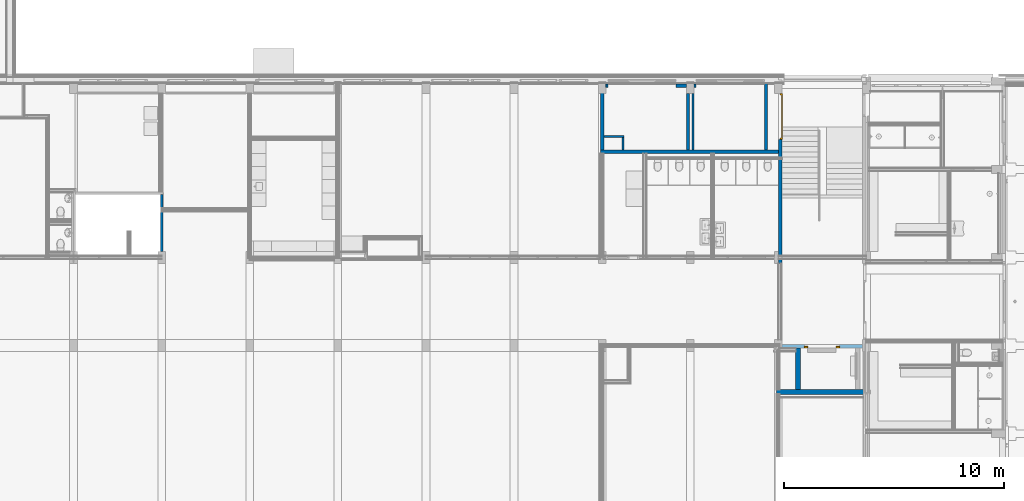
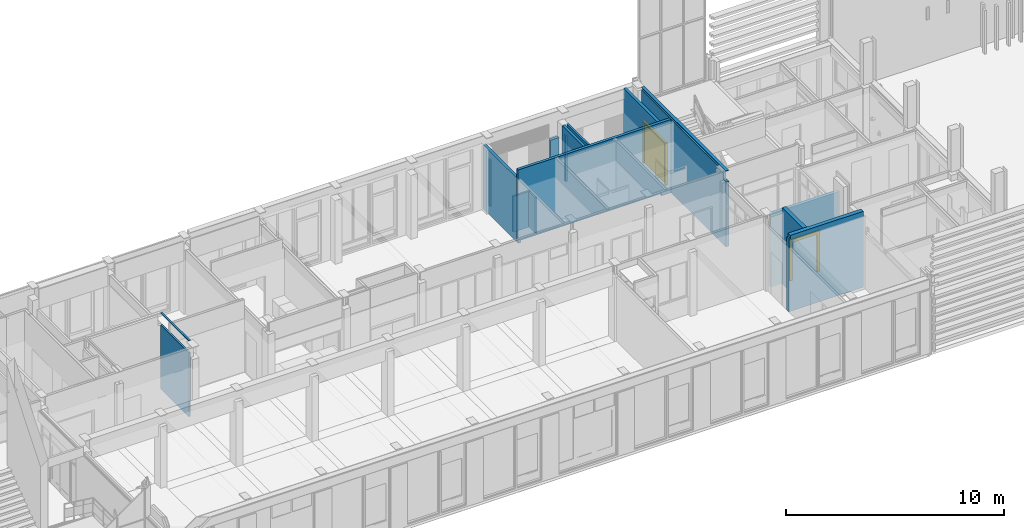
# One storey, part 19 of 109: 14 walls, 2 doors, 4 openings, plus 1 element that does not belong to this part.
"""IFC2X3 building model written with IfcOpenShell, lengths in millimetres."""

import ifcopenshell
import ifcopenshell.guid

model = None  # the IFC model being written
_history = None  # IfcOwnerHistory: only IFC2X3 demands one
_inside = {}  # id of a spatial element -> (the spatial element, [elements in it])
_under = {}  # id of a project, library or spatial element -> (it, [spatial elements below it])
_declared = {}  # id of a project -> (the project, [libraries it declares])
_typed = {}  # id of a type object -> (the type object, [elements of that type])
_made_of = {}  # id of a material, layer set ... -> (it, [elements and type objects made of it])


def new_model(schema):
    """Start an empty IFC model of exactly this schema.

    Asked for "IFC4X3", IfcOpenShell would pick the latest addendum, in which some entities
    have other attributes; the version numbers below select the first issue.
    IFC2X3 requires an IfcOwnerHistory on every rooted entity: one is made here for all.
    """
    global model, _history
    if schema == "IFC4X3":
        model = ifcopenshell.file(schema_version=(4, 3, 0, 0))
    else:
        model = ifcopenshell.file(schema=schema)
    _inside.clear()
    _under.clear()
    _declared.clear()
    _typed.clear()
    _made_of.clear()
    _history = None
    if model.schema == "IFC2X3":
        org = make("IfcOrganization", Name="unknown")
        user = make(
            "IfcPersonAndOrganization",
            ThePerson=make("IfcPerson", FamilyName="unknown"),
            TheOrganization=org,
        )
        app = make(
            "IfcApplication",
            ApplicationDeveloper=org,
            Version="unknown",
            ApplicationFullName="unknown",
            ApplicationIdentifier="unknown",
        )
        _history = make(
            "IfcOwnerHistory",
            OwningUser=user,
            OwningApplication=app,
            ChangeAction="ADDED",
            CreationDate=0,
        )
    return model


def make(cls, **values):
    """One entity of the class cls with the attributes given. An attribute that is None is left unset."""
    return model.create_entity(
        cls, **{name: value for name, value in values.items() if value is not None}
    )


def entity(cls, *values):
    """Any entity or typed value of the class cls, its attributes in the order of the schema. None: left unset."""
    e = model.create_entity(cls)
    for i, value in enumerate(values):
        if value is not None:
            e[i] = value
    return e


def rooted(cls, **values):
    """An entity with a GlobalId (a new one), such as an element, a storey or a relation."""
    return make(cls, GlobalId=ifcopenshell.guid.new(), OwnerHistory=_history, **values)


def si_unit(unit_type, name, prefix=None):
    """IfcSIUnit, for example si_unit("LENGTHUNIT", "METRE", prefix="MILLI")."""
    return make("IfcSIUnit", UnitType=unit_type, Prefix=prefix, Name=name)


def converted_unit(unit_type, name, factor, base, dimensions=None, offset=None):
    """IfcConversionBasedUnit, such as the inch: factor (a typed value) times the base unit."""
    return make(
        "IfcConversionBasedUnit"
        if offset is None
        else "IfcConversionBasedUnitWithOffset",
        ConversionOffset=offset,
        Dimensions=None
        if dimensions is None
        else entity("IfcDimensionalExponents", *dimensions),
        UnitType=unit_type,
        Name=name,
        ConversionFactor=make(
            "IfcMeasureWithUnit", ValueComponent=factor, UnitComponent=base
        ),
    )


def derived_unit(unit_type, elements):
    """IfcDerivedUnit: a product of units, each with its exponent."""
    return make(
        "IfcDerivedUnit",
        Elements=[
            make("IfcDerivedUnitElement", Unit=unit, Exponent=power)
            for unit, power in elements
        ],
        UnitType=unit_type,
    )


def money_unit(currency):
    """IfcMonetaryUnit."""
    return make("IfcMonetaryUnit", Currency=currency)


def assignment(units):
    """IfcUnitAssignment: the units of a project."""
    return None if units is None else make("IfcUnitAssignment", Units=units)


def point(xyz):
    """IfcCartesianPoint."""
    return None if xyz is None else make("IfcCartesianPoint", Coordinates=xyz)


def direction(xyz):
    """IfcDirection."""
    return None if xyz is None else make("IfcDirection", DirectionRatios=xyz)


def frame(location, z_axis=None, x_axis=None):
    """IfcAxis2Placement3D, a coordinate frame: its origin and axes. An axis left out is left unset."""
    return make(
        "IfcAxis2Placement3D",
        Location=point(location),
        Axis=direction(z_axis),
        RefDirection=direction(x_axis),
    )


def origin_with_axes():
    """The frame at (0, 0, 0) with the z axis (0, 0, 1) and the x axis (1, 0, 0) written out."""
    return frame((0.0, 0.0, 0.0), z_axis=(0.0, 0.0, 1.0), x_axis=(1.0, 0.0, 0.0))


def place(relative_to, where):
    """IfcLocalPlacement: puts the frame where relative to a parent placement (None: the world)."""
    return make(
        "IfcLocalPlacement", PlacementRelTo=relative_to, RelativePlacement=where
    )


def context(
    kind, dimensions, precision=None, world=None, true_north=None, identifier=None
):
    """IfcGeometricRepresentationContext, for example the 3D "Model" context."""
    return make(
        "IfcGeometricRepresentationContext",
        ContextIdentifier=identifier,
        ContextType=kind,
        CoordinateSpaceDimension=dimensions,
        Precision=precision,
        WorldCoordinateSystem=world,
        TrueNorth=true_north,
    )


def subcontext(parent, identifier, kind, view, scale=None):
    """IfcGeometricRepresentationSubContext, for example "Body" below "Model"."""
    return make(
        "IfcGeometricRepresentationSubContext",
        ContextIdentifier=identifier,
        ContextType=kind,
        ParentContext=parent,
        TargetScale=scale,
        TargetView=view,
    )


def project(units=None, contexts=None):
    """IfcProject with its units and contexts."""
    return rooted(
        "IfcProject",
        Name="project",
        RepresentationContexts=contexts,
        UnitsInContext=assignment(units),
    )


def spatial(cls, under=None, at=None, **own):
    """A site, building, storey or space (cls), placed at a placement, below another one or the project."""
    s = rooted(cls, ObjectPlacement=at, **own)
    if under is not None:
        _under.setdefault(under.id(), (under, []))[1].append(s)
    return s


def faces_of(points, faces, orient=None, outer=None):
    """IfcFace entities. A face is a list of loops; a loop is a list of indices into points, from 0.

    orient and outer hold one flag for each loop. By default every Orientation is true, the
    first loop of a face is its IfcFaceOuterBound and the others are IfcFaceBound.
    """
    made = []
    for i, loops in enumerate(faces):
        bounds = []
        for j, loop in enumerate(loops):
            is_outer = j == 0 if outer is None else outer[i][j]
            bounds.append(
                make(
                    "IfcFaceOuterBound" if is_outer else "IfcFaceBound",
                    Bound=make("IfcPolyLoop", Polygon=[points[k] for k in loop]),
                    Orientation=True if orient is None else orient[i][j],
                )
            )
        made.append(make("IfcFace", Bounds=bounds))
    return made


def faceted_brep(points, faces, orient=None, outer=None, voids=None):
    """IfcFacetedBrep: a solid bounded by flat faces; with voids (closed shells), ...WithVoids."""
    shared = [point(p) for p in points]
    hull = make("IfcClosedShell", CfsFaces=faces_of(shared, faces, orient, outer))
    if voids is None:
        return make("IfcFacetedBrep", Outer=hull)
    return make(
        "IfcFacetedBrepWithVoids",
        Outer=hull,
        Voids=[
            make(cls, CfsFaces=faces_of(shared, fs, o, b)) for cls, fs, o, b in voids
        ],
    )


def shape(context_of_items, identifier, shape_type, items):
    """IfcShapeRepresentation: the items that make up one representation, for example the "Body"."""
    return make(
        "IfcShapeRepresentation",
        ContextOfItems=context_of_items,
        RepresentationIdentifier=identifier,
        RepresentationType=shape_type,
        Items=items,
    )


def material(Name=None, Category=None):
    """IfcMaterial."""
    return make("IfcMaterial", Name=Name, Category=Category)


def made_of(thing, what):
    """Note that an element or type object is made of a material, layer set ...; save() writes the relation."""
    if what is not None:
        _made_of.setdefault(what.id(), (what, []))[1].append(thing)
    return thing


def type_object(cls, material=None, **own):
    """A type object (cls), such as IfcWallType, which elements share."""
    return made_of(rooted(cls, **own), material)


def element(
    cls,
    number,
    at=None,
    inside=None,
    cuts=None,
    type_object=None,
    material=None,
    context=None,
    identifier="Body",
    shape_type=None,
    held_by="IfcProductDefinitionShape",
    body=None,
    shapes=None,
    **own,
):
    """One element of the class cls, such as IfcWall. Its Tag is "e" and its number.

    at: its placement. inside: the storey or other place that contains it. cuts: it is an
    opening in that element (IfcRelVoidsElement). A single representation is given by context,
    identifier, shape_type and body (its items); several are given by shapes. held_by: the class
    of the entity that holds the representations. save() writes the other relations.
    """
    e = rooted(cls, Tag="e%d" % number, ObjectPlacement=at, **own)
    if body is not None:
        shapes = [shape(context, identifier, shape_type, body)]
    if shapes is not None:
        e.Representation = make(held_by, Representations=shapes)
    if inside is not None:
        _inside.setdefault(inside.id(), (inside, []))[1].append(e)
    if cuts is not None:
        rooted(
            "IfcRelVoidsElement", RelatingBuildingElement=cuts, RelatedOpeningElement=e
        )
    if type_object is not None:
        _typed.setdefault(type_object.id(), (type_object, []))[1].append(e)
    return made_of(e, material)


def fill(opening, filler):
    """IfcRelFillsElement: the door or window that sits in an opening."""
    return rooted(
        "IfcRelFillsElement",
        RelatingOpeningElement=opening,
        RelatedBuildingElement=filler,
    )


def aggregate(whole, parts):
    """IfcRelAggregates: a whole, such as a stair, and the parts it consists of."""
    return rooted("IfcRelAggregates", RelatingObject=whole, RelatedObjects=parts)


def save(model, path):
    """Write the relations noted so far, then the file.

    IfcRelAggregates (storeys below a building ...), IfcRelContainedInSpatialStructure (elements
    in a storey), IfcRelDefinesByType, IfcRelAssociatesMaterial and IfcRelDeclares: one each for
    every whole, place, type object, material and project.
    """
    for whole, parts in _under.values():
        aggregate(whole, parts)
    for where, things in _inside.values():
        rooted(
            "IfcRelContainedInSpatialStructure",
            RelatedElements=things,
            RelatingStructure=where,
        )
    for kind, things in _typed.values():
        rooted("IfcRelDefinesByType", RelatedObjects=things, RelatingType=kind)
    for what, things in _made_of.values():
        rooted("IfcRelAssociatesMaterial", RelatedObjects=things, RelatingMaterial=what)
    for by, libraries in _declared.values():
        rooted("IfcRelDeclares", RelatingContext=by, RelatedDefinitions=libraries)
    model.write(path)


model = new_model("IFC2X3")

# Units and contexts
model_context = context("Model", 3, precision=0.01, world=origin_with_axes(), true_north=direction((0.0, 1.0)))
body_context = subcontext(model_context, "Body", "Model", "MODEL_VIEW")
ifc_project = project(units=[si_unit("LENGTHUNIT", "METRE", prefix="MILLI"), si_unit("AREAUNIT", "SQUARE_METRE"), si_unit("VOLUMEUNIT", "CUBIC_METRE"), converted_unit("PLANEANGLEUNIT", "DEGREE", entity("IfcPlaneAngleMeasure", 0.0174532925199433), si_unit("PLANEANGLEUNIT", "RADIAN"), dimensions=[0, 0, 0, 0, 0, 0, 0]), money_unit("EUR"), converted_unit("TIMEUNIT", "Year", entity("IfcTimeMeasure", 31557600.0), si_unit("TIMEUNIT", "SECOND"), dimensions=[0, 0, 1, 0, 0, 0, 0]), si_unit("MASSUNIT", "GRAM", prefix="KILO"), si_unit("THERMODYNAMICTEMPERATUREUNIT", "DEGREE_CELSIUS"), si_unit("LUMINOUSINTENSITYUNIT", "LUMEN"), si_unit("ENERGYUNIT", "JOULE", prefix="MEGA"), derived_unit("THERMALCONDUCTANCEUNIT", [(si_unit("POWERUNIT", "WATT"), 1), (si_unit("LENGTHUNIT", "METRE"), -1), (si_unit("THERMODYNAMICTEMPERATUREUNIT", "KELVIN"), -1)]), derived_unit("SPECIFICHEATCAPACITYUNIT", [(si_unit("ENERGYUNIT", "JOULE"), 1), (si_unit("MASSUNIT", "GRAM", prefix="KILO"), -1), (si_unit("THERMODYNAMICTEMPERATUREUNIT", "KELVIN"), -1)]), derived_unit("MASSDENSITYUNIT", [(si_unit("MASSUNIT", "GRAM", prefix="KILO"), 1), (si_unit("VOLUMEUNIT", "CUBIC_METRE"), -1)])], contexts=[model_context])

# Site, building, storey
site_placement = place(None, origin_with_axes())
site = spatial("IfcSite", under=ifc_project, at=site_placement, Name="<site naam>", CompositionType="ELEMENT")
building_placement = place(site_placement, origin_with_axes())
building = spatial("IfcBuilding", under=site, at=building_placement, Name="<Naam gebouw>", CompositionType="ELEMENT")
storey_placement = place(building_placement, origin_with_axes())
storey = spatial("IfcBuildingStorey", under=building, at=storey_placement, Name="00 Begane grond", CompositionType="ELEMENT", Elevation=0.0)

# Wall, openings, door
ifc_material_1 = material(Name="kalkzandsteen")
wall_type_1 = type_object("IfcWallType", Name="kalkzandsteen 150", PredefinedType="NOTDEFINED")
wall_1_placement = place(storey_placement, frame((51825.00000000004, 7904.999998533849, 0.0), z_axis=(0.0, 0.0, 1.0), x_axis=(-1.0, 0.0, 0.0)))
wall_1 = element("IfcWall", 1, at=wall_1_placement, inside=storey, type_object=wall_type_1, material=ifc_material_1, Name="22_Binnenwand_kalkzandsteen", context=body_context, shape_type="Brep", body=[
    faceted_brep([(3650.000000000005, -150.0000000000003, 4100.000000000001), (0.0, -150.0000000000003, 4100.000000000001), (0.0, -150.0000000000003, 0.0), (3650.000000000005, -150.0000000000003, 0.0), (0.0, 0.0, 4100.000000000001), (3650.000000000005, 0.0, 4100.000000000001), (0.0, 0.0, 0.0), (3650.000000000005, 0.0, 0.0)], [[[0, 1, 2, 3]], [[4, 1, 0, 5]], [[1, 4, 6, 2]], [[2, 6, 7, 3]], [[5, 0, 3, 7]], [[4, 5, 7, 6]]]),
])
opening_1_placement = place(wall_1_placement, frame((1844.999999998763, 0.0, 0.0), z_axis=(0.0, 0.0, 1.0), x_axis=(1.0, 0.0, 0.0)))
element("IfcOpeningElement", 2, at=opening_1_placement, cuts=wall_1, Name="22_liftdeur_305", context=body_context, shape_type="Brep", body=[
    faceted_brep([(649.9999999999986, 1.000000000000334, 2100.0), (649.9999999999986, 1.000000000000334, 0.0), (-649.9999999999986, 1.000000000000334, 0.0), (-649.9999999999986, 1.000000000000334, 2100.0), (649.9999999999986, -150.9999999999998, 2100.0), (649.9999999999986, -150.9999999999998, 0.0), (-649.9999999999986, -150.9999999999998, 0.0), (-649.9999999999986, -150.9999999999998, 2100.0)], [[[0, 1, 2, 3]], [[4, 5, 1, 0]], [[5, 6, 2, 1]], [[6, 7, 3, 2]], [[7, 4, 0, 3]], [[6, 5, 4, 7]]]),
])
opening_2_placement = place(wall_1_placement, frame((1844.999999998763, 0.0, 0.0), z_axis=(0.0, 0.0, 1.0), x_axis=(1.0, 0.0, 0.0)))
opening_2 = element("IfcOpeningElement", 3, at=opening_2_placement, cuts=wall_1, Name="22__305", context=body_context, shape_type="Brep", body=[
    faceted_brep([(-799.9999999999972, -150.9999999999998, 2300.0), (-799.9999999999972, -150.9999999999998, 0.0), (799.9999999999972, -150.9999999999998, 0.0), (799.9999999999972, -150.9999999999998, 2300.0), (-799.9999999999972, 1.000000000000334, 2300.0), (-799.9999999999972, 1.000000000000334, 0.0), (799.9999999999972, 1.000000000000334, 0.0), (799.9999999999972, 1.000000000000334, 2300.0)], [[[0, 1, 2, 3]], [[4, 5, 1, 0]], [[5, 6, 2, 1]], [[6, 7, 3, 2]], [[7, 4, 0, 3]], [[6, 5, 4, 7]]]),
])
door_style_1 = type_object("IfcDoorStyle", Name="D1 27", ConstructionType="NOTDEFINED", OperationType="NOTDEFINED", ParameterTakesPrecedence=False, Sizeable=False)
door_1_placement = place(opening_2_placement, frame((-649.9999999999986, 0.0, 0.0), z_axis=(0.0, 0.0, 1.0), x_axis=(1.0, 0.0, 0.0)))
door_1 = element("IfcDoor", 4, at=door_1_placement, inside=storey, type_object=door_style_1, Name="22__305", ObjectType="DOOR", OverallHeight=2300.0, OverallWidth=1600.0, context=body_context, shape_type="Brep", body=[
    faceted_brep([(1449.999999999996, 0.0, 0.0), (1449.999999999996, -60.0000000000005, 0.0), (1299.999999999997, -60.0000000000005, 0.0), (1299.999999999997, 0.0, 0.0), (1449.999999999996, 0.0, 2100.0), (1449.999999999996, -59.99999999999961, 2100.0), (1299.999999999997, -59.99999999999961, 2100.0), (1299.999999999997, 0.0, 2100.0)], [[[0, 1, 2, 3]], [[4, 5, 1, 0]], [[1, 5, 6, 2]], [[3, 2, 6, 7]], [[0, 3, 7, 4]], [[7, 6, 5, 4]]]),
    faceted_brep([(-149.9999999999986, 0.0, 0.0), (-149.9999999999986, -59.99999999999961, 0.0), (-149.9999999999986, -59.99999999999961, 2100.0), (-149.9999999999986, 0.0, 2100.0), (0.0, 0.0, 0.0), (0.0, -59.99999999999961, 0.0), (0.0, -59.99999999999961, 2100.0), (0.0, 0.0, 2100.0)], [[[0, 1, 2, 3]], [[4, 5, 1, 0]], [[1, 5, 6, 2]], [[3, 2, 6, 7]], [[0, 3, 7, 4]], [[7, 6, 5, 4]]]),
    faceted_brep([(1449.999999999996, 0.0, 2300.0), (1449.999999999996, -59.99999999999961, 2300.0), (1449.999999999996, -59.99999999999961, 2100.0), (1449.999999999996, 0.0, 2100.0), (-149.9999999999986, 0.0, 2300.0), (-149.9999999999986, -59.99999999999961, 2300.0), (-149.9999999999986, -59.99999999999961, 2100.0), (0.0, -59.99999999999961, 2100.0), (1299.999999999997, -59.99999999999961, 2100.0), (1299.999999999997, 0.0, 2100.0), (0.0, 0.0, 2100.0), (-149.9999999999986, 0.0, 2100.0)], [[[0, 1, 2, 3]], [[4, 5, 1, 0]], [[1, 5, 6, 7, 8, 2]], [[3, 2, 8, 9]], [[0, 3, 9, 10, 11, 4]], [[11, 6, 5, 4]], [[10, 7, 6, 11]], [[9, 8, 7, 10]]]),
])
fill(opening_2, door_1)

# Wall, opening
wall_2_placement = place(storey_placement, frame((47362.99904152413, 19954.9498242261, 112.0000000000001), z_axis=(0.0, 0.0, 1.0), x_axis=(5.470457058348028e-09, -1.0, 0.0)))
wall_2 = element("IfcWall", 5, at=wall_2_placement, inside=storey, type_object=wall_type_1, material=ifc_material_1, Name="22_Binnenwand_kalkzandsteen", context=body_context, shape_type="Brep", body=[
    faceted_brep([(8.19941448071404e-07, 149.8853476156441, 0.0), (8.19941448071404e-07, 149.8853476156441, 17.99999999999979), (0.0, 0.0, 17.99999999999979), (0.0, 0.0, 3988.0), (8.205702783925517e-07, 149.9999999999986, 3988.0), (8.205702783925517e-07, 149.9999999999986, 0.0), (3079.999959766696, 149.8853307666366, 17.99999999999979), (3079.999959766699, 149.8853307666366, 0.0), (3079.999959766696, -1.684900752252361e-05, 17.99999999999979), (3079.999959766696, -1.684900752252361e-05, 3988.0), (3079.999959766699, 149.9999831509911, 3988.0), (3079.999959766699, 149.9999831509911, 0.0)], [[[0, 1, 2, 3, 4, 5]], [[6, 1, 0, 7]], [[8, 2, 1, 6]], [[3, 2, 8, 9]], [[3, 9, 10, 4]], [[4, 10, 11, 5]], [[11, 7, 0, 5]], [[8, 6, 7, 11, 10, 9]]]),
])
opening_3_placement = place(wall_2_placement, frame((19954.94956512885, -47362.99915068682, -112.0000000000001), z_axis=(0.0, 0.0, 1.0), x_axis=(5.470457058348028e-09, 1.0, 0.0)))
element("IfcOpeningElement", 6, at=opening_3_placement, cuts=wall_2, Name="22_vloerluik_", context=body_context, shape_type="Brep", body=[
    faceted_brep([(47212.99902467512, 17939.94041595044, 929.9999999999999), (47212.99902467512, 17939.94041595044, 926.9378967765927), (47662.99907522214, 17939.94041841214, 926.9378967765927), (47662.99907522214, 17939.94041841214, 929.9999999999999), (47212.99902467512, 17939.94041595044, 933.0621032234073), (47212.99902467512, 17941.00387323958, 939.0932692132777), (47212.99902467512, 17943.09847520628, 944.8481408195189), (47212.99902467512, 17946.16057842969, 950.151859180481), (47212.99902467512, 17950.09714245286, 954.8432734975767), (47212.99902467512, 17954.78855676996, 958.7798375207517), (47212.99902467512, 17960.09227513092, 961.8419407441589), (47212.99902467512, 17965.84714673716, 963.9365427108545), (47212.99902467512, 17971.87831272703, 965.0), (47212.99902467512, 17974.94041595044, 965.0), (47212.99902467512, 17978.00251917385, 965.0), (47212.99902467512, 17984.03368516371, 963.9365427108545), (47212.99902467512, 17989.78855676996, 961.8419407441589), (47212.99902467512, 17995.09227513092, 958.7798375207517), (47212.99902467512, 17999.78368944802, 954.8432734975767), (47212.99902467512, 18003.72025347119, 950.151859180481), (47212.99902467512, 18006.7823566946, 944.8481408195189), (47212.99902467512, 18008.87695866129, 939.0932692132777), (47212.99902467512, 18009.94041595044, 933.0621032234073), (47212.99902467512, 18009.94041595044, 929.9999999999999), (47212.99902467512, 18009.94041595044, 926.9378967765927), (47212.99902467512, 18008.87695866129, 920.9067307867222), (47212.99902467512, 18006.7823566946, 915.1518591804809), (47212.99902467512, 18003.72025347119, 909.848140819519), (47212.99902467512, 17999.78368944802, 905.1567265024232), (47212.99902467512, 17995.09227513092, 901.2201624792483), (47212.99902467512, 17989.78855676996, 898.158059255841), (47212.99902467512, 17984.03368516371, 896.0634572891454), (47212.99902467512, 17978.00251917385, 895.0), (47212.99902467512, 17974.94041595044, 895.0), (47212.99902467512, 17971.87831272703, 895.0), (47212.99902467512, 17965.84714673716, 896.0634572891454), (47212.99902467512, 17960.09227513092, 898.158059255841), (47212.99902467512, 17954.78855676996, 901.2201624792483), (47212.99902467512, 17950.09714245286, 905.1567265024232), (47212.99902467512, 17946.16057842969, 909.848140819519), (47212.99902467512, 17943.09847520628, 915.1518591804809), (47212.99902467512, 17941.00387323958, 920.9067307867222), (47662.99907522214, 17941.00387570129, 920.9067307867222), (47662.99907522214, 17943.09847766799, 915.1518591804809), (47662.99907522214, 17946.1605808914, 909.848140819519), (47662.99907522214, 17950.09714491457, 905.1567265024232), (47662.99907522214, 17954.78855923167, 901.2201624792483), (47662.99907522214, 17960.09227759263, 898.158059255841), (47662.99907522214, 17965.84714919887, 896.0634572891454), (47662.99907522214, 17971.87831518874, 895.0), (47662.99907522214, 17974.94041841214, 895.0), (47662.99907522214, 17978.00252163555, 895.0), (47662.99907522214, 17984.03368762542, 896.0634572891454), (47662.99907522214, 17989.78855923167, 898.158059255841), (47662.99907522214, 17995.09227759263, 901.2201624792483), (47662.99907522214, 17999.78369190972, 905.1567265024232), (47662.99907522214, 18003.7202559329, 909.848140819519), (47662.99907522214, 18006.7823591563, 915.1518591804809), (47662.99907522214, 18008.876961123, 920.9067307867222), (47662.99907522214, 18009.94041841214, 926.9378967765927), (47662.99907522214, 18009.94041841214, 929.9999999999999), (47662.99907522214, 18009.94041841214, 933.0621032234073), (47662.99907522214, 18008.876961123, 939.0932692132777), (47662.99907522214, 18006.7823591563, 944.8481408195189), (47662.99907522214, 18003.7202559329, 950.151859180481), (47662.99907522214, 17999.78369190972, 954.8432734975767), (47662.99907522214, 17995.09227759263, 958.7798375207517), (47662.99907522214, 17989.78855923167, 961.8419407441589), (47662.99907522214, 17984.03368762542, 963.9365427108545), (47662.99907522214, 17978.00252163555, 965.0), (47662.99907522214, 17974.94041841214, 965.0), (47662.99907522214, 17971.87831518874, 965.0), (47662.99907522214, 17965.84714919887, 963.9365427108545), (47662.99907522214, 17960.09227759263, 961.8419407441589), (47662.99907522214, 17954.78855923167, 958.7798375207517), (47662.99907522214, 17950.09714491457, 954.8432734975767), (47662.99907522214, 17946.1605808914, 950.151859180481), (47662.99907522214, 17943.09847766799, 944.8481408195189), (47662.99907522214, 17941.00387570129, 939.0932692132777), (47662.99907522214, 17939.94041841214, 933.0621032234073)], [[[0, 1, 2, 3]], [[0, 4, 5, 6, 7, 8, 9, 10, 11, 12, 13, 14, 15, 16, 17, 18, 19, 20, 21, 22, 23, 24, 25, 26, 27, 28, 29, 30, 31, 32, 33, 34, 35, 36, 37, 38, 39, 40, 41, 1]], [[1, 41, 42, 2]], [[3, 2, 42, 43, 44, 45, 46, 47, 48, 49, 50, 51, 52, 53, 54, 55, 56, 57, 58, 59, 60, 61, 62, 63, 64, 65, 66, 67, 68, 69, 70, 71, 72, 73, 74, 75, 76, 77, 78, 79]], [[4, 0, 3, 79]], [[5, 4, 79, 78]], [[6, 5, 78, 77]], [[7, 6, 77, 76]], [[8, 7, 76, 75]], [[9, 8, 75, 74]], [[10, 9, 74, 73]], [[11, 10, 73, 72]], [[12, 11, 72, 71]], [[13, 12, 71, 70]], [[14, 13, 70, 69]], [[15, 14, 69, 68]], [[16, 15, 68, 67]], [[17, 16, 67, 66]], [[18, 17, 66, 65]], [[19, 18, 65, 64]], [[20, 19, 64, 63]], [[21, 20, 63, 62]], [[22, 21, 62, 61]], [[23, 22, 61, 60]], [[24, 23, 60, 59]], [[25, 24, 59, 58]], [[26, 25, 58, 57]], [[27, 26, 57, 56]], [[28, 27, 56, 55]], [[29, 28, 55, 54]], [[30, 29, 54, 53]], [[31, 30, 53, 52]], [[32, 31, 52, 51]], [[33, 32, 51, 50]], [[34, 33, 50, 49]], [[35, 34, 49, 48]], [[36, 35, 48, 47]], [[37, 36, 47, 46]], [[38, 37, 46, 45]], [[39, 38, 45, 44]], [[40, 39, 44, 43]], [[41, 40, 43, 42]]]),
])

# Walls
wall_3_placement = place(storey_placement, frame((43825.00000000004, 19449.99999999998, 0.0), z_axis=(0.0, 0.0, 1.0), x_axis=(0.0, -1.0, 0.0)))
element("IfcWall", 7, at=wall_3_placement, inside=storey, type_object=wall_type_1, material=ifc_material_1, Name="22_Binnenwand_kalkzandsteen", context=body_context, shape_type="Brep", body=[
    faceted_brep([(8.228546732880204e-06, 0.0, 3570.0), (4.702027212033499e-06, 149.9999999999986, 3570.0), (3.522083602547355e-05, 150.0000000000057, 129.9999999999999), (6.16364630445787e-05, 0.0, 129.9999999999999), (2575.050154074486, 150.0000000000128, 3570.0), (2575.050154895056, 0.0, 3570.0), (2575.050154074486, 150.0000000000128, 129.9999999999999), (2575.050154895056, 0.0, 129.9999999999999)], [[[0, 1, 2, 3]], [[4, 1, 0, 5]], [[1, 4, 6, 2]], [[6, 7, 3, 2]], [[5, 0, 3, 7]], [[4, 5, 7, 6]]]),
])
wall_4_placement = place(storey_placement, frame((48015.00001408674, 16874.94986802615, 0.0), z_axis=(0.0, 0.0, 1.0), x_axis=(-1.0, -5.470459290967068e-09, 0.0)))
element("IfcWall", 8, at=wall_4_placement, inside=storey, type_object=wall_type_1, material=ifc_material_1, Name="22_Binnenwand_kalkzandsteen", context=body_context, shape_type="Brep", body=[
    faceted_brep([(502.115624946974, -2.74680189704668e-06, 129.9999999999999), (7940.000014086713, -4.343544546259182e-05, 129.9999999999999), (7940.000014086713, -4.343544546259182e-05, 0.0), (8090.000014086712, -4.425601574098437e-05, 0.0), (8090.000014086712, -4.425601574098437e-05, 4100.0), (0.0, 0.0, 4100.0), (0.0, 0.0, 0.0), (502.115624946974, -2.74680189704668e-06, 0.0), (7940.000014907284, 149.9999925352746, 129.9999999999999), (502.1156257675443, 150.0000332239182, 129.9999999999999), (7940.000014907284, 149.9999925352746, 0.0), (8090.000014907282, 149.9999557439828, 0.0), (8090.000014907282, 149.9999557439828, 4100.0), (8.205702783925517e-07, 149.9999999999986, 4100.0), (8.205702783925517e-07, 149.9999999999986, 0.0), (502.1156257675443, 150.0000332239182, 0.0)], [[[0, 1, 2, 3, 4, 5, 6, 7]], [[8, 1, 0, 9]], [[10, 2, 1, 8]], [[3, 2, 10, 11]], [[11, 12, 4, 3]], [[5, 4, 12, 13]], [[14, 6, 5, 13]], [[14, 15, 7, 6]], [[9, 0, 7, 15]], [[8, 9, 15, 14, 13, 12, 11, 10]]]),
])
wall_5_placement = place(storey_placement, frame((39925.00000000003, 19954.54883586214, 0.0), z_axis=(0.0, 0.0, 1.0), x_axis=(0.0, -1.0, 0.0)))
element("IfcWall", 9, at=wall_5_placement, inside=storey, type_object=wall_type_1, material=ifc_material_1, Name="22_Binnenwand_kalkzandsteen", context=body_context, shape_type="Brep", body=[
    faceted_brep([(0.0, 0.0, 3570.0), (0.0, 149.9999999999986, 3570.0), (0.0, 149.9999999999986, 0.0), (0.0, 0.0, 0.0), (3079.599011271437, 149.9999999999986, 3570.0), (3079.599012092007, 0.0, 3570.0), (3079.599011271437, 149.9999999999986, 0.0), (3079.599012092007, 0.0, 0.0)], [[[0, 1, 2, 3]], [[4, 1, 0, 5]], [[1, 4, 6, 2]], [[2, 6, 7, 3]], [[5, 0, 3, 7]], [[4, 5, 7, 6]]]),
])
wall_6_placement = place(storey_placement, frame((40175.00900223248, 19878.00001350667, 129.9999999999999), z_axis=(0.0, 0.0, 1.0), x_axis=(0.9999999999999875, -1.589195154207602e-07, 0.0)))
element("IfcWall", 10, at=wall_6_placement, inside=storey, type_object=wall_type_1, material=ifc_material_1, Name="22_Binnenwand_kalkzandsteen", context=body_context, shape_type="Brep", body=[
    faceted_brep([(0.0, 0.0, 0.0), (84.99099776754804, 0.0, 0.0), (84.99099776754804, -150.0000000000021, 0.0), (0.0, -150.0000000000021, 0.0), (0.0, 0.0, 2599.999960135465), (84.99099776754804, 0.0, 2599.999960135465), (84.99099776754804, -150.0000000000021, 2599.999960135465), (0.0, -150.0000000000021, 2599.999960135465)], [[[0, 1, 2, 3]], [[4, 5, 1, 0]], [[2, 1, 5, 6]], [[3, 2, 6, 7]], [[4, 0, 3, 7]], [[7, 6, 5, 4]]]),
])
wall_7_placement = place(storey_placement, frame((43364.00000000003, 19877.99999999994, 129.9999808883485), z_axis=(0.0, 0.0, 1.0), x_axis=(0.9999999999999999, 1.509118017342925e-08, 0.0)))
element("IfcWall", 11, at=wall_7_placement, inside=storey, type_object=wall_type_1, material=ifc_material_1, Name="22_Binnenwand_kalkzandsteen", context=body_context, shape_type="Brep", body=[
    faceted_brep([(0.0, 0.0, 0.0), (461.0000000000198, -6.957034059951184e-06, 0.0), (460.9999977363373, -150.0000069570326, 0.0), (-2.263682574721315e-06, -149.9999999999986, 0.0), (0.0, 0.0, 2599.999979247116), (461.0000000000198, -6.957034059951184e-06, 2599.999979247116), (460.9999977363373, -150.0000069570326, 2599.999979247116), (-2.263682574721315e-06, -149.9999999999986, 2599.999979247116)], [[[0, 1, 2, 3]], [[4, 5, 1, 0]], [[2, 1, 5, 6]], [[3, 2, 6, 7]], [[4, 0, 3, 7]], [[7, 6, 5, 4]]]),
])
wall_8_placement = place(storey_placement, frame((44174.99995291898, 19878.00001223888, 0.0), z_axis=(0.0, 0.0, 1.0), x_axis=(0.9999999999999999, 1.509119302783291e-08, 0.0)))
element("IfcWall", 12, at=wall_8_placement, inside=storey, type_object=wall_type_1, material=ifc_material_1, Name="22_Binnenwand_kalkzandsteen", context=body_context, shape_type="Brep", body=[
    faceted_brep([(84.0080891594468, -150.0000012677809, 2700.0), (84.0080891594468, -150.0000012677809, 129.9999999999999), (84.00809142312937, -1.26778232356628e-06, 129.9999999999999), (84.00809142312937, -1.26778232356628e-06, 2700.0), (-2.263682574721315e-06, -149.9999999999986, 2700.0), (4.481737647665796e-05, -149.9999999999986, 129.9999999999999), (4.708105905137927e-05, 0.0, 129.9999999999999), (0.0, 0.0, 2700.0)], [[[0, 1, 2, 3]], [[4, 5, 1, 0]], [[5, 6, 2, 1]], [[3, 2, 6, 7]], [[7, 4, 0, 3]], [[7, 6, 5, 4]]]),
])
wall_type_2 = type_object("IfcWallType", Name="kalkzandsteen 100", PredefinedType="NOTDEFINED")
wall_9_placement = place(storey_placement, frame((40900.00001361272, 17449.94984336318, 129.9999601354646), z_axis=(0.0, 0.0, 1.0), x_axis=(-1.0, 0.0, 0.0)))
element("IfcWall", 13, at=wall_9_placement, inside=storey, type_object=wall_type_2, material=ifc_material_1, Name="22_Binnenwand_kalkzandsteen", context=body_context, shape_type="Brep", body=[
    faceted_brep([(825.0000136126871, 0.0, 0.0), (825.0000136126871, -100.0000000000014, 0.0), (-99.99999945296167, -100.0000000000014, 0.0), (-100.0000000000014, 0.0, 0.0), (825.0000136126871, 0.0, 2000.0), (825.0000136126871, -100.0000000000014, 2000.0), (-99.99999945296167, -100.0000000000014, 2000.0), (-100.0000000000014, 0.0, 2000.0)], [[[0, 1, 2, 3]], [[1, 0, 4, 5]], [[1, 5, 6, 2]], [[7, 3, 2, 6]], [[4, 0, 3, 7]], [[5, 4, 7, 6]]]),
])
wall_10_placement = place(storey_placement, frame((40900.00001675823, 16874.94982910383, 130.0), z_axis=(0.0, 0.0, 1.0), x_axis=(-5.470449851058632e-09, 1.0, 0.0)))
element("IfcWall", 14, at=wall_10_placement, inside=storey, type_object=wall_type_2, material=ifc_material_1, Name="22_Binnenwand_kalkzandsteen", context=body_context, shape_type="Brep", body=[
    faceted_brep([(575.000014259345, -3.145508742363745e-06, 0.0), (575.0000137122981, -100.0000031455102, 0.0), (0.0, -100.0000000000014, 0.0), (0.0, 0.0, 0.0), (575.000014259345, -3.145508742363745e-06, 2000.0), (575.0000137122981, -100.0000031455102, 2000.0), (0.0, -100.0000000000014, 2000.0), (0.0, 0.0, 2000.0)], [[[0, 1, 2, 3]], [[1, 0, 4, 5]], [[1, 5, 6, 2]], [[7, 3, 2, 6]], [[4, 0, 3, 7]], [[5, 4, 7, 6]]]),
])
wall_11_placement = place(storey_placement, frame((44174.99995291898, 19450.00656230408, 0.0), z_axis=(0.0, 0.0, 1.0), x_axis=(0.0, -1.0, 0.0)))
element("IfcWall", 15, at=wall_11_placement, inside=storey, type_object=wall_type_2, material=ifc_material_1, Name="22_Binnenwand_kalkzandsteen", context=body_context, shape_type="Brep", body=[
    faceted_brep([(0.0008784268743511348, -99.9999999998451, 3570.0), (0.0008760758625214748, 4.708104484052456e-05, 3570.0), (0.006562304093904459, 4.708105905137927e-05, 129.9999999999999), (0.006579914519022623, -99.99999999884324, 129.9999999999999), (2575.05671528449, 4.708104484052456e-05, 3570.0), (2575.056715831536, -100.0000000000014, 3570.0), (2575.05671528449, 0.0, 129.9999999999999), (2575.056715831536, -100.0000000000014, 129.9999999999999)], [[[0, 1, 2, 3]], [[4, 1, 0, 5]], [[1, 4, 6, 2]], [[6, 7, 3, 2]], [[5, 0, 3, 7]], [[4, 5, 7, 6]]]),
])

# Wall, opening, door
ifc_material_2 = material(Name="beton_gewapend C")
wall_type_3 = type_object("IfcWallType", Name="beton 160 160", PredefinedType="NOTDEFINED")
wall_12_placement = place(storey_placement, frame((48175.00000000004, 19449.99999999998, 0.0), z_axis=(0.0, 0.0, 1.0), x_axis=(5.47045886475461e-09, -1.0, 0.0)))
wall_12 = element("IfcWall", 16, at=wall_12_placement, inside=storey, type_object=wall_type_3, material=ifc_material_2, Name="22_Binnenwand_beton", context=body_context, shape_type="Brep", body=[
    faceted_brep([(-8.752749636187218e-07, -159.9999999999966, 4100.0), (7449.999999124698, -160.0000407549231, 4100.0), (7449.999999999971, -4.075493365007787e-05, 4100.0), (4600.499999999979, -2.516684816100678e-05, 4100.0), (4600.49999999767, -0.4221708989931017, 4100.0), (-2.309263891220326e-09, -0.4221457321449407, 4100.0), (7724.999999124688, -160.0000422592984, 3620.0), (7449.999999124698, -160.0000407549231, 3620.0), (-8.752749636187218e-07, -159.9999999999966, 0.0), (7724.999999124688, -160.0000422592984, 0.0), (7449.999999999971, -4.075493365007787e-05, 3620.0), (7724.999999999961, -4.225930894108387e-05, 3620.0), (7724.999999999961, -4.225929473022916e-05, 0.0), (0.0, 0.0, 0.0), (0.0, 0.0, 4250.0), (7724.999999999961, -4.225929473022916e-05, 4250.0), (7724.999999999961, -4.225929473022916e-05, 4220.0), (4600.499999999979, -2.516684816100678e-05, 4220.0), (4600.49999999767, -0.4221708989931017, 4220.0), (-2.309263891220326e-09, -0.4221457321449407, 4220.0), (-8.752749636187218e-07, -159.9999999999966, 4220.0), (-8.752749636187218e-07, -159.9999999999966, 4250.0), (7724.999999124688, -160.0000422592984, 4250.0), (7724.999999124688, -160.0000422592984, 4220.0)], [[[0, 1, 2, 3, 4, 5]], [[6, 7, 1, 0, 8, 9]], [[7, 10, 2, 1]], [[2, 10, 11, 12, 13, 14, 15, 16, 17, 3]], [[18, 4, 3, 17]], [[19, 5, 4, 18]], [[13, 8, 0, 5, 19, 20, 21, 14]], [[6, 11, 10, 7]], [[9, 8, 13, 12]], [[12, 11, 6, 9]], [[15, 14, 21, 22]], [[15, 22, 23, 16]], [[20, 19, 18, 17, 16, 23]], [[21, 20, 23, 22]]]),
])
opening_4_placement = place(wall_12_placement, frame((1042.000000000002, 0.0, 0.0), z_axis=(0.0, 0.0, 1.0), x_axis=(1.0, 0.0, 0.0)))
opening_4 = element("IfcOpeningElement", 17, at=opening_4_placement, cuts=wall_12, Name="22_BI-B-01a_305", context=body_context, shape_type="Brep", body=[
    faceted_brep([(-1042.000000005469, -160.9999999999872, 2367.0), (-1042.000000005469, -160.9999999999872, 0.0), (1041.999999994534, -161.0000114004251, 0.0), (1041.999999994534, -161.0000114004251, 2367.0), (-1041.999999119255, 1.000042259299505, 2367.0), (-1041.999999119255, 1.000042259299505, 0.0), (1042.000000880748, 1.000030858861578, 0.0), (1042.000000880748, 1.000030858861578, 2367.0)], [[[0, 1, 2, 3]], [[4, 5, 1, 0]], [[5, 6, 2, 1]], [[6, 7, 3, 2]], [[7, 4, 0, 3]], [[6, 5, 4, 7]]]),
])
door_style_2 = type_object("IfcDoorStyle", Name="D2 27", ConstructionType="NOTDEFINED", OperationType="DOUBLE_DOOR_SINGLE_SWING", ParameterTakesPrecedence=False, Sizeable=False)
door_2_placement = place(opening_4_placement, frame((-1042.000000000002, 0.0, 0.0), z_axis=(0.0, 0.0, 1.0), x_axis=(1.0, 0.0, 0.0)))
door_2 = element("IfcDoor", 18, at=door_2_placement, inside=storey, type_object=door_style_2, Name="22_BI-B-01a_305", ObjectType="DOOR", OverallHeight=2367.0, OverallWidth=2084.0, context=body_context, shape_type="Brep", body=[
    faceted_brep([(2017.000000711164, -30.0000110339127, 0.0), (2017.00000030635, -104.0000110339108, 0.0), (2017.00000030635, -104.0000110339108, 2300.0), (2017.000000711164, -30.0000110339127, 2300.0), (2034.000000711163, -30.00001112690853, 0.0), (2034.000000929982, 9.999988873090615, 0.0), (2084.000000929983, 9.999988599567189, 0.0), (2084.00000030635, -104.00001140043, 0.0), (2084.00000030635, -104.00001140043, 2300.0), (2034.000000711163, -30.00001112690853, 2300.0), (2084.000000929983, 9.999988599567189, 2300.0), (2034.000000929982, 9.999988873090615, 2300.0)], [[[0, 1, 2, 3]], [[4, 5, 6, 7, 1, 0]], [[1, 7, 8, 2]], [[9, 3, 2, 8, 10, 11]], [[9, 4, 0, 3]], [[11, 5, 4, 9]], [[11, 10, 6, 5]], [[6, 10, 8, 7]]]),
    faceted_brep([(50.00000071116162, -30.00000027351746, 2300.0), (50.00000092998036, 9.99999972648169, 2300.0), (9.299796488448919e-07, 10.00000000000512, 2300.0), (3.063469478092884e-07, -103.9999999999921, 2300.0), (67.00000030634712, -104.0000003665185, 2300.0), (67.00000071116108, -30.0000003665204, 2300.0), (50.00000071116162, -30.00000027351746, 0.0), (50.00000092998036, 9.99999972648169, 0.0), (9.299796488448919e-07, 10.00000000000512, 0.0), (3.063469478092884e-07, -103.9999999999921, 0.0), (67.00000030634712, -104.0000003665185, 0.0), (67.00000071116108, -30.0000003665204, 0.0)], [[[0, 1, 2, 3, 4, 5]], [[0, 6, 7, 1]], [[7, 8, 2, 1]], [[2, 8, 9, 3]], [[3, 9, 10, 4]], [[5, 4, 10, 11]], [[5, 11, 6, 0]], [[6, 11, 10, 9, 8, 7]]]),
    faceted_brep([(2034.000000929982, 9.999988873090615, 2317.0), (50.00000092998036, 9.99999972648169, 2317.0), (50.00000092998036, 9.99999972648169, 2300.0), (9.299796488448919e-07, 10.00000000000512, 2300.0), (9.299796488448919e-07, 10.00000000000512, 2367.0), (2084.000000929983, 9.999988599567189, 2367.0), (2084.000000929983, 9.999988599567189, 2300.0), (2034.000000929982, 9.999988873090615, 2300.0), (2034.000000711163, -30.00001112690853, 2317.0), (50.00000071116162, -30.00000027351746, 2317.0), (50.00000071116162, -30.00000027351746, 2300.0), (67.00000071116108, -30.0000003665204, 2300.0), (67.00000030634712, -104.0000003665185, 2300.0), (3.063469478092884e-07, -103.9999999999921, 2300.0), (3.063469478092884e-07, -103.9999999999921, 2367.0), (2084.00000030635, -104.00001140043, 2367.0), (2084.00000030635, -104.00001140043, 2300.0), (2034.000000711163, -30.00001112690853, 2300.0), (2017.00000030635, -104.0000110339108, 2300.0), (2017.000000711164, -30.0000110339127, 2300.0)], [[[0, 1, 2, 3, 4, 5, 6, 7]], [[0, 8, 9, 1]], [[1, 9, 10, 2]], [[10, 11, 12, 13, 3, 2]], [[4, 3, 13, 14]], [[5, 4, 14, 15]], [[6, 5, 15, 16]], [[17, 7, 6, 16, 18, 19]], [[7, 17, 8, 0]], [[10, 9, 8, 17, 19, 11]], [[19, 18, 12, 11]], [[12, 18, 16, 15, 14, 13]]]),
    faceted_brep([(50.00000092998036, 9.99999972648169, 0.0), (1042.000000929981, 9.9999942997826, 0.0), (1042.000000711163, -30.00000570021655, 0.0), (50.00000071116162, -30.00000027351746, 0.0), (50.00000092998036, 9.99999972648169, 2317.0), (1042.000000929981, 9.9999942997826, 2317.0), (1042.000000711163, -30.00000570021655, 2317.0), (50.00000071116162, -30.00000027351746, 2317.0)], [[[0, 1, 2, 3]], [[0, 4, 5, 1]], [[1, 5, 6, 2]], [[3, 2, 6, 7]], [[4, 0, 3, 7]], [[5, 4, 7, 6]]]),
    faceted_brep([(2034.000000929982, 9.999988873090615, 0.0), (2034.000000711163, -30.00001112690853, 0.0), (1042.000000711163, -30.00000570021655, 0.0), (1042.000000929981, 9.9999942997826, 0.0), (2034.000000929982, 9.999988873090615, 2317.0), (2034.000000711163, -30.00001112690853, 2317.0), (1042.000000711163, -30.00000570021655, 2317.0), (1042.000000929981, 9.9999942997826, 2317.0)], [[[0, 1, 2, 3]], [[4, 5, 1, 0]], [[1, 5, 6, 2]], [[3, 2, 6, 7]], [[0, 3, 7, 4]], [[7, 6, 5, 4]]]),
])
fill(opening_4, door_2)

# Walls
ifc_material_3 = material(Name="ALG - ALGEMEEN")
wall_type_4 = type_object("IfcWallType", Name="ALG - ALGEMEEN 100", PredefinedType="NOTDEFINED")
wall_13_placement = place(storey_placement, frame((20000.00000000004, 14985.02299140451, 0.0), z_axis=(0.0, 0.0, 1.0), x_axis=(-0.0001312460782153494, -0.9999999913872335, 0.0)))
element("IfcWall", 19, at=wall_13_placement, inside=storey, type_object=wall_type_4, material=ifc_material_3, Name="22_Binnenwand_ALG", context=body_context, shape_type="Brep", body=[
    faceted_brep([(119.9999999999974, -50.00000000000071, 3570.0), (2710.029577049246, -50.00000000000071, 3570.0), (2710.016452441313, 49.99999999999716, 3570.0), (119.9999999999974, 50.00000000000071, 3570.0), (119.9999999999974, -50.00000000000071, 0.0), (2710.029577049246, -50.00000000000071, 0.0), (2710.016452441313, 49.99999999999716, 0.0), (119.9999999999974, 50.00000000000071, 0.0)], [[[0, 1, 2, 3]], [[4, 5, 1, 0]], [[5, 6, 2, 1]], [[3, 2, 6, 7]], [[7, 4, 0, 3]], [[7, 6, 5, 4]]]),
    faceted_brep([(119.9999999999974, -50.00000000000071, 4250.0), (2710.029577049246, -50.00000000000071, 4250.0), (2710.016452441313, 49.99999999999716, 4250.0), (119.9999999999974, 50.00000000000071, 4250.0), (119.9999999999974, -50.00000000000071, 4220.0), (2710.029577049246, -50.00000000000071, 4220.0), (2710.016452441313, 49.99999999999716, 4220.0), (119.9999999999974, 50.00000000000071, 4220.0)], [[[0, 1, 2, 3]], [[4, 5, 1, 0]], [[5, 6, 2, 1]], [[3, 2, 6, 7]], [[4, 0, 3, 7]], [[7, 6, 5, 4]]]),
])
wall_type_5 = type_object("IfcWallType", Name="kalkzandsteen 214", PredefinedType="NOTDEFINED")
wall_14_placement = place(storey_placement, frame((49000.00000000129, 6005.000000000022, 0.0), z_axis=(0.0, 0.0, 1.0), x_axis=(0.0, 1.0, 0.0)))
element("IfcWall", 20, at=wall_14_placement, inside=storey, type_object=wall_type_5, material=ifc_material_1, Name="22_Binnenwand_kalkzandsteen", context=body_context, shape_type="Brep", body=[
    faceted_brep([(1899.999998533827, 0.0, 4250.0), (1899.999998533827, 213.9999999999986, 4250.0), (0.0, 213.9999999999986, 4250.0), (0.0, 0.0, 4250.0), (1899.999998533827, 0.0, 0.0), (1899.999998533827, 213.9999999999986, 0.0), (0.0, 213.9999999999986, 0.0), (0.0, 0.0, 0.0)], [[[0, 1, 2, 3]], [[1, 0, 4, 5]], [[1, 5, 6, 2]], [[7, 3, 2, 6]], [[4, 0, 3, 7]], [[5, 4, 7, 6]]]),
])
wall_15_placement = place(storey_placement, frame((48000.00000000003, 6005.000000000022, 0.0), z_axis=(0.0, 0.0, 1.0), x_axis=(1.0, 0.0, 0.0)))
element("IfcWall", 21, at=wall_15_placement, inside=storey, type_object=wall_type_5, material=ifc_material_1, Name="22_Binnenwand_kalkzandsteen", context=body_context, shape_type="Brep", body=[
    faceted_brep([(3865.000000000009, -213.9999999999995, 3.000000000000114), (3865.000000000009, -131.6333236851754, 3.000000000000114), (3865.000000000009, -131.6333236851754, 0.0), (3865.000000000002, 0.0, 0.0), (3865.000000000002, 0.0, 4250.0), (3865.000000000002, -213.9999999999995, 4250.0), (74.99999999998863, -131.6333236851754, 3.000000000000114), (74.99999999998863, -214.0000000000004, 3.000000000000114), (74.99999999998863, -131.6333236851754, 0.0), (74.99999999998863, -214.0000000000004, 0.0), (-75.00000000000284, -214.0000000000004, 0.0), (-75.00000000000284, 0.0, 0.0), (-75.00000000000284, 0.0, 4070.0), (0.0, 0.0, 4070.0), (0.0, 0.0, 4250.0), (0.0, -214.0000000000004, 4250.0), (0.0, -214.0000000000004, 4070.0), (-75.00000000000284, -214.0000000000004, 4070.0)], [[[0, 1, 2, 3, 4, 5]], [[6, 1, 0, 7]], [[8, 2, 1, 6]], [[2, 8, 9, 10, 11, 3]], [[3, 11, 12, 13, 14, 4]], [[5, 4, 14, 15]], [[9, 7, 0, 5, 15, 16, 17, 10]], [[7, 9, 8, 6]], [[11, 10, 17, 12]], [[17, 16, 13, 12]], [[13, 16, 15, 14]]]),
])

save(model, "model.ifc")
